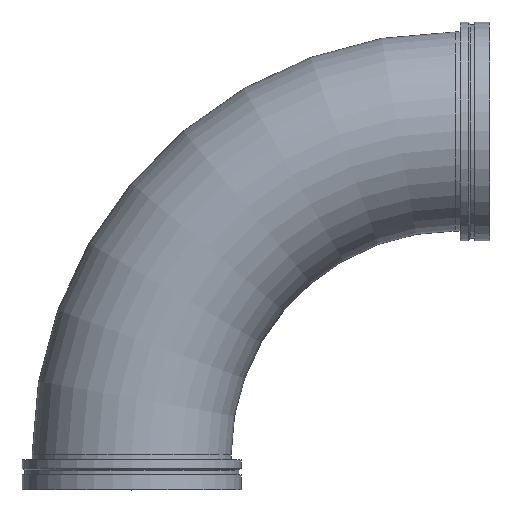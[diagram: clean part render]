
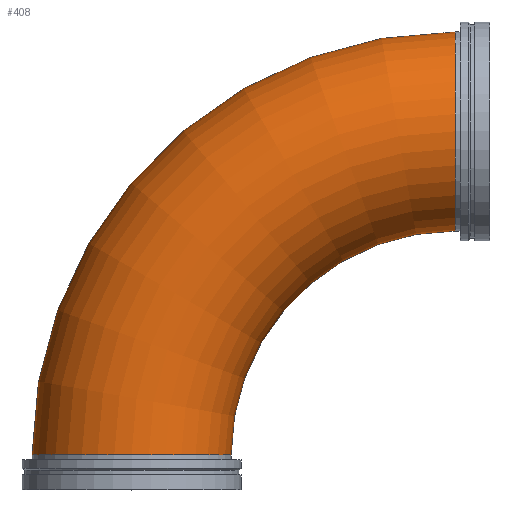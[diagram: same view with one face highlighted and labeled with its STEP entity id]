
A CAD part, top view. The second image highlights one B-rep face of the part: STEP entity #408.
In plain terms, the highlighted toroidal (fillet/blend) face has major radius 825.5 mm and minor radius 254 mm.
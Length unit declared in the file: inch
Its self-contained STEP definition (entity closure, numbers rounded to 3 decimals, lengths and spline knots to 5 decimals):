
#46=TOROIDAL_SURFACE('',#484,32.5,10.);
#105=FACE_OUTER_BOUND('',#129,.T.);
#129=EDGE_LOOP('',(#346,#347,#348,#349,#350,#351));
#169=CIRCLE('',#482,10.);
#170=CIRCLE('',#483,10.);
#171=CIRCLE('',#485,22.5);
#172=CIRCLE('',#486,10.);
#173=CIRCLE('',#487,10.);
#207=VERTEX_POINT('',#756);
#208=VERTEX_POINT('',#758);
#209=VERTEX_POINT('',#762);
#210=VERTEX_POINT('',#764);
#256=EDGE_CURVE('',#207,#208,#169,.T.);
#257=EDGE_CURVE('',#208,#207,#170,.T.);
#258=EDGE_CURVE('',#208,#209,#171,.T.);
#259=EDGE_CURVE('',#209,#210,#172,.T.);
#260=EDGE_CURVE('',#210,#209,#173,.T.);
#346=ORIENTED_EDGE('',*,*,#256,.F.);
#347=ORIENTED_EDGE('',*,*,#257,.F.);
#348=ORIENTED_EDGE('',*,*,#258,.T.);
#349=ORIENTED_EDGE('',*,*,#259,.T.);
#350=ORIENTED_EDGE('',*,*,#260,.T.);
#351=ORIENTED_EDGE('',*,*,#258,.F.);
#408=ADVANCED_FACE('',(#105),#46,.T.);
#482=AXIS2_PLACEMENT_3D('',#759,#617,#618);
#483=AXIS2_PLACEMENT_3D('',#760,#619,#620);
#484=AXIS2_PLACEMENT_3D('',#761,#621,#622);
#485=AXIS2_PLACEMENT_3D('',#763,#623,#624);
#486=AXIS2_PLACEMENT_3D('',#765,#625,#626);
#487=AXIS2_PLACEMENT_3D('',#766,#627,#628);
#617=DIRECTION('center_axis',(1.,0.,0.));
#618=DIRECTION('ref_axis',(0.,-1.,0.));
#619=DIRECTION('center_axis',(1.,0.,0.));
#620=DIRECTION('ref_axis',(0.,-1.,0.));
#621=DIRECTION('center_axis',(0.,0.,-1.));
#622=DIRECTION('ref_axis',(-1.,0.,0.));
#623=DIRECTION('center_axis',(0.,0.,1.));
#624=DIRECTION('ref_axis',(-1.,0.,0.));
#625=DIRECTION('center_axis',(0.,1.,0.));
#626=DIRECTION('ref_axis',(1.,0.,0.));
#627=DIRECTION('center_axis',(0.,1.,0.));
#628=DIRECTION('ref_axis',(1.,0.,0.));
#756=CARTESIAN_POINT('',(32.5,46.,0.));
#758=CARTESIAN_POINT('',(32.5,26.,0.));
#759=CARTESIAN_POINT('Origin',(32.5,36.,0.));
#760=CARTESIAN_POINT('Origin',(32.5,36.,0.));
#761=CARTESIAN_POINT('Origin',(32.5,3.5,0.));
#762=CARTESIAN_POINT('',(10.,3.5,0.));
#763=CARTESIAN_POINT('Origin',(32.5,3.5,0.));
#764=CARTESIAN_POINT('',(-10.,3.5,0.));
#765=CARTESIAN_POINT('Origin',(0.,3.5,0.));
#766=CARTESIAN_POINT('Origin',(0.,3.5,0.));
